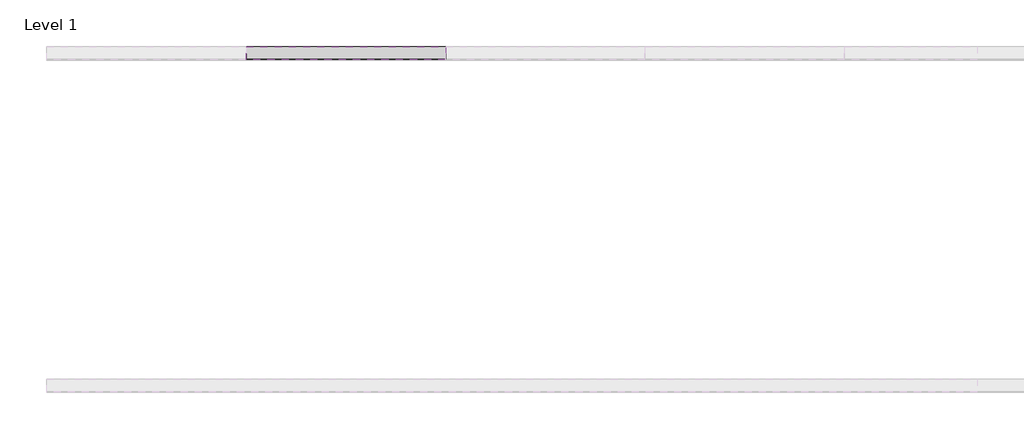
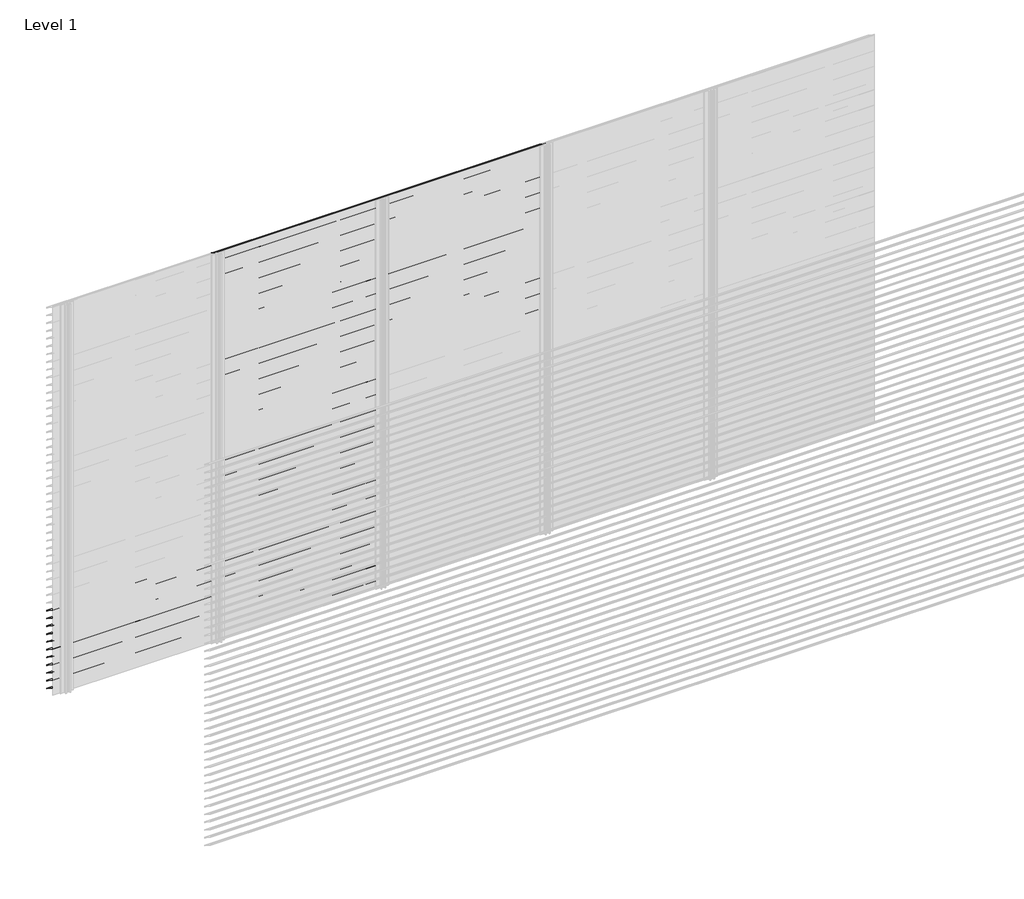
# One storey, part 8 of 153: 84 proxies.
"""IFC4 building model written with IfcOpenShell, lengths in millimetres."""

from ifc_helpers import new_model, si_unit, frame, origin, place, context, project, spatial, polyline, outline, extrude, element, save

model = new_model("IFC4")

# Units and contexts
model_context = context("Model", 3, world=origin())
ifc_project = project(units=[si_unit("LENGTHUNIT", "METRE", prefix="MILLI")], contexts=[model_context])

# Site, building, storey
site = spatial("IfcSite", under=ifc_project)
building = spatial("IfcBuilding", under=site)
storey = spatial("IfcBuildingStorey", under=building, Name="Level 1", Elevation=0.0)

# Proxies
placement = place(None, origin())
element("IfcBuildingElementProxy", 1, Name="Wall Sweeps", at=placement, inside=storey, context=model_context, shape_type="SweptSolid", body=[
    extrude(outline(polyline([(7065.0270068, 606.0), (7065.0270068, 600.0), (7063.7770068, 600.7216933), (7063.7770068, 605.2538091), (6987.0270068, 653.9915103), (6987.0270068, 660.0), (6988.2770068, 660.0), (6988.2770068, 654.7377012), (7065.0270068, 606.0)])), frame((466.6208097, 0.0, 0.0), z_axis=(1.0, 0.0, 0.0), x_axis=(0.0, 1.0, 0.0)), (0.0, 0.0, 1.0), 1200.0000002),
])
element("IfcBuildingElementProxy", 2, Name="Wall Sweeps", at=placement, inside=storey, context=model_context, shape_type="SweptSolid", body=[
    extrude(outline(polyline([(7065.0270068, 546.0), (7065.0270068, 540.0), (7063.7770068, 540.7216933), (7063.7770068, 545.2538091), (6987.0270068, 593.9915103), (6987.0270068, 600.0), (6988.2770068, 600.0), (6988.2770068, 594.7377012), (7065.0270068, 546.0)])), frame((466.6208097, 0.0, 0.0), z_axis=(1.0, 0.0, 0.0), x_axis=(0.0, 1.0, 0.0)), (0.0, 0.0, 1.0), 1200.0000002),
])
element("IfcBuildingElementProxy", 3, Name="Wall Sweeps", at=placement, inside=storey, context=model_context, shape_type="SweptSolid", body=[
    extrude(outline(polyline([(7065.0270068, 486.0), (7065.0270068, 480.0), (7063.7770068, 480.7216933), (7063.7770068, 485.2538091), (6987.0270068, 533.9915103), (6987.0270068, 540.0), (6988.2770068, 540.0), (6988.2770068, 534.7377012), (7065.0270068, 486.0)])), frame((466.6208097, 0.0, 0.0), z_axis=(1.0, 0.0, 0.0), x_axis=(0.0, 1.0, 0.0)), (0.0, 0.0, 1.0), 1200.0000002),
])
element("IfcBuildingElementProxy", 4, Name="Wall Sweeps", at=placement, inside=storey, context=model_context, shape_type="SweptSolid", body=[
    extrude(outline(polyline([(7065.0270068, 426.0), (7065.0270068, 420.0), (7063.7770068, 420.7216933), (7063.7770068, 425.2538091), (6987.0270068, 473.9915103), (6987.0270068, 480.0), (6988.2770068, 480.0), (6988.2770068, 474.7377012), (7065.0270068, 426.0)])), frame((466.6208097, 0.0, 0.0), z_axis=(1.0, 0.0, 0.0), x_axis=(0.0, 1.0, 0.0)), (0.0, 0.0, 1.0), 1200.0000002),
])
element("IfcBuildingElementProxy", 5, Name="Wall Sweeps", at=placement, inside=storey, context=model_context, shape_type="SweptSolid", body=[
    extrude(outline(polyline([(7065.0270068, 366.0), (7065.0270068, 360.0), (7063.7770068, 360.7216933), (7063.7770068, 365.2538091), (6987.0270068, 413.9915103), (6987.0270068, 420.0), (6988.2770068, 420.0), (6988.2770068, 414.7377012), (7065.0270068, 366.0)])), frame((466.6208097, 0.0, 0.0), z_axis=(1.0, 0.0, 0.0), x_axis=(0.0, 1.0, 0.0)), (0.0, 0.0, 1.0), 1200.0000002),
])
element("IfcBuildingElementProxy", 6, Name="Wall Sweeps", at=placement, inside=storey, context=model_context, shape_type="SweptSolid", body=[
    extrude(outline(polyline([(7065.0270068, 306.0), (7065.0270068, 300.0), (7063.7770068, 300.7216933), (7063.7770068, 305.2538091), (6987.0270068, 353.9915103), (6987.0270068, 360.0), (6988.2770068, 360.0), (6988.2770068, 354.7377012), (7065.0270068, 306.0)])), frame((466.6208097, 0.0, 0.0), z_axis=(1.0, 0.0, 0.0), x_axis=(0.0, 1.0, 0.0)), (0.0, 0.0, 1.0), 1200.0000002),
])
element("IfcBuildingElementProxy", 7, Name="Wall Sweeps", at=placement, inside=storey, context=model_context, shape_type="SweptSolid", body=[
    extrude(outline(polyline([(7065.0270068, 246.0), (7065.0270068, 240.0), (7063.7770068, 240.7216933), (7063.7770068, 245.2538091), (6987.0270068, 293.9915103), (6987.0270068, 300.0), (6988.2770068, 300.0), (6988.2770068, 294.7377012), (7065.0270068, 246.0)])), frame((466.6208097, 0.0, 0.0), z_axis=(1.0, 0.0, 0.0), x_axis=(0.0, 1.0, 0.0)), (0.0, 0.0, 1.0), 1200.0000002),
])
element("IfcBuildingElementProxy", 8, Name="Wall Sweeps", at=placement, inside=storey, context=model_context, shape_type="SweptSolid", body=[
    extrude(outline(polyline([(7065.0270068, 186.0), (7065.0270068, 180.0), (7063.7770068, 180.7216933), (7063.7770068, 185.2538091), (6987.0270068, 233.9915103), (6987.0270068, 240.0), (6988.2770068, 240.0), (6988.2770068, 234.7377012), (7065.0270068, 186.0)])), frame((466.6208097, 0.0, 0.0), z_axis=(1.0, 0.0, 0.0), x_axis=(0.0, 1.0, 0.0)), (0.0, 0.0, 1.0), 1200.0000002),
])
element("IfcBuildingElementProxy", 9, Name="Wall Sweeps", at=placement, inside=storey, context=model_context, shape_type="SweptSolid", body=[
    extrude(outline(polyline([(7065.0270068, 126.0), (7065.0270068, 120.0), (7063.7770068, 120.7216933), (7063.7770068, 125.2538091), (6987.0270068, 173.9915103), (6987.0270068, 180.0), (6988.2770068, 180.0), (6988.2770068, 174.7377012), (7065.0270068, 126.0)])), frame((466.6208097, 0.0, 0.0), z_axis=(1.0, 0.0, 0.0), x_axis=(0.0, 1.0, 0.0)), (0.0, 0.0, 1.0), 1200.0000002),
])
element("IfcBuildingElementProxy", 10, Name="Wall Sweeps", at=placement, inside=storey, context=model_context, shape_type="SweptSolid", body=[
    extrude(outline(polyline([(7065.0270068, 66.0), (7065.0270068, 60.0), (7063.7770068, 60.7216933), (7063.7770068, 65.2538091), (6987.0270068, 113.9915103), (6987.0270068, 120.0), (6988.2770068, 120.0), (6988.2770068, 114.7377012), (7065.0270068, 66.0)])), frame((466.6208097, 0.0, 0.0), z_axis=(1.0, 0.0, 0.0), x_axis=(0.0, 1.0, 0.0)), (0.0, 0.0, 1.0), 1200.0000002),
])
element("IfcBuildingElementProxy", 11, Name="Wall Sweeps", at=placement, inside=storey, context=model_context, shape_type="SweptSolid", body=[
    extrude(outline(polyline([(7065.0270068, 6.0), (7065.0270068, 0.0), (7063.7770068, 0.7216933), (7063.7770068, 5.2538091), (6987.0270068, 53.9915103), (6987.0270068, 60.0), (6988.2770068, 60.0), (6988.2770068, 54.7377012), (7065.0270068, 6.0)])), frame((466.6208097, 0.0, 0.0), z_axis=(1.0, 0.0, 0.0), x_axis=(0.0, 1.0, 0.0)), (0.0, 0.0, 1.0), 1200.0000002),
])
element("IfcBuildingElementProxy", 12, Name="Wall Sweeps", at=placement, inside=storey, context=model_context, shape_type="SweptSolid", body=[
    extrude(outline(polyline([(7065.0270068, 2946.0), (7065.0270068, 2940.0), (7063.7770068, 2940.7216933), (7063.7770068, 2945.2538091), (6987.0270068, 2993.9915103), (6987.0270068, 3000.0), (6988.2770068, 3000.0), (6988.2770068, 2994.7377012), (7065.0270068, 2946.0)])), frame((1666.6208099, 0.0, 0.0), z_axis=(1.0, 0.0, 0.0), x_axis=(0.0, 1.0, 0.0)), (0.0, 0.0, 1.0), 1199.9999999),
])
element("IfcBuildingElementProxy", 13, Name="Wall Sweeps", at=placement, inside=storey, context=model_context, shape_type="SweptSolid", body=[
    extrude(outline(polyline([(7065.0270068, 2886.0), (7065.0270068, 2880.0), (7063.7770068, 2880.7216933), (7063.7770068, 2885.2538091), (6987.0270068, 2933.9915103), (6987.0270068, 2940.0), (6988.2770068, 2940.0), (6988.2770068, 2934.7377012), (7065.0270068, 2886.0)])), frame((1666.6208099, 0.0, 0.0), z_axis=(1.0, 0.0, 0.0), x_axis=(0.0, 1.0, 0.0)), (0.0, 0.0, 1.0), 1199.9999999),
])
element("IfcBuildingElementProxy", 14, Name="Wall Sweeps", at=placement, inside=storey, context=model_context, shape_type="SweptSolid", body=[
    extrude(outline(polyline([(7065.0270068, 2826.0), (7065.0270068, 2820.0), (7063.7770068, 2820.7216933), (7063.7770068, 2825.2538091), (6987.0270068, 2873.9915103), (6987.0270068, 2880.0), (6988.2770068, 2880.0), (6988.2770068, 2874.7377012), (7065.0270068, 2826.0)])), frame((1666.6208099, 0.0, 0.0), z_axis=(1.0, 0.0, 0.0), x_axis=(0.0, 1.0, 0.0)), (0.0, 0.0, 1.0), 1199.9999999),
])
element("IfcBuildingElementProxy", 15, Name="Wall Sweeps", at=placement, inside=storey, context=model_context, shape_type="SweptSolid", body=[
    extrude(outline(polyline([(7065.0270068, 2766.0), (7065.0270068, 2760.0), (7063.7770068, 2760.7216933), (7063.7770068, 2765.2538091), (6987.0270068, 2813.9915103), (6987.0270068, 2820.0), (6988.2770068, 2820.0), (6988.2770068, 2814.7377012), (7065.0270068, 2766.0)])), frame((1666.6208099, 0.0, 0.0), z_axis=(1.0, 0.0, 0.0), x_axis=(0.0, 1.0, 0.0)), (0.0, 0.0, 1.0), 1199.9999999),
])
element("IfcBuildingElementProxy", 16, Name="Wall Sweeps", at=placement, inside=storey, context=model_context, shape_type="SweptSolid", body=[
    extrude(outline(polyline([(7065.0270068, 2706.0), (7065.0270068, 2700.0), (7063.7770068, 2700.7216933), (7063.7770068, 2705.2538091), (6987.0270068, 2753.9915103), (6987.0270068, 2760.0), (6988.2770068, 2760.0), (6988.2770068, 2754.7377012), (7065.0270068, 2706.0)])), frame((1666.6208099, 0.0, 0.0), z_axis=(1.0, 0.0, 0.0), x_axis=(0.0, 1.0, 0.0)), (0.0, 0.0, 1.0), 1199.9999999),
])
element("IfcBuildingElementProxy", 17, Name="Wall Sweeps", at=placement, inside=storey, context=model_context, shape_type="SweptSolid", body=[
    extrude(outline(polyline([(7065.0270068, 2646.0), (7065.0270068, 2640.0), (7063.7770068, 2640.7216933), (7063.7770068, 2645.2538091), (6987.0270068, 2693.9915103), (6987.0270068, 2700.0), (6988.2770068, 2700.0), (6988.2770068, 2694.7377012), (7065.0270068, 2646.0)])), frame((1666.6208099, 0.0, 0.0), z_axis=(1.0, 0.0, 0.0), x_axis=(0.0, 1.0, 0.0)), (0.0, 0.0, 1.0), 1199.9999999),
])
element("IfcBuildingElementProxy", 18, Name="Wall Sweeps", at=placement, inside=storey, context=model_context, shape_type="SweptSolid", body=[
    extrude(outline(polyline([(7065.0270068, 2586.0), (7065.0270068, 2580.0), (7063.7770068, 2580.7216933), (7063.7770068, 2585.2538091), (6987.0270068, 2633.9915103), (6987.0270068, 2640.0), (6988.2770068, 2640.0), (6988.2770068, 2634.7377012), (7065.0270068, 2586.0)])), frame((1666.6208099, 0.0, 0.0), z_axis=(1.0, 0.0, 0.0), x_axis=(0.0, 1.0, 0.0)), (0.0, 0.0, 1.0), 1199.9999999),
])
element("IfcBuildingElementProxy", 19, Name="Wall Sweeps", at=placement, inside=storey, context=model_context, shape_type="SweptSolid", body=[
    extrude(outline(polyline([(7065.0270068, 2526.0), (7065.0270068, 2520.0), (7063.7770068, 2520.7216933), (7063.7770068, 2525.2538091), (6987.0270068, 2573.9915103), (6987.0270068, 2580.0), (6988.2770068, 2580.0), (6988.2770068, 2574.7377012), (7065.0270068, 2526.0)])), frame((1666.6208099, 0.0, 0.0), z_axis=(1.0, 0.0, 0.0), x_axis=(0.0, 1.0, 0.0)), (0.0, 0.0, 1.0), 1199.9999999),
])
element("IfcBuildingElementProxy", 20, Name="Wall Sweeps", at=placement, inside=storey, context=model_context, shape_type="SweptSolid", body=[
    extrude(outline(polyline([(7065.0270068, 2466.0), (7065.0270068, 2460.0), (7063.7770068, 2460.7216933), (7063.7770068, 2465.2538091), (6987.0270068, 2513.9915103), (6987.0270068, 2520.0), (6988.2770068, 2520.0), (6988.2770068, 2514.7377012), (7065.0270068, 2466.0)])), frame((1666.6208099, 0.0, 0.0), z_axis=(1.0, 0.0, 0.0), x_axis=(0.0, 1.0, 0.0)), (0.0, 0.0, 1.0), 1199.9999999),
])
element("IfcBuildingElementProxy", 21, Name="Wall Sweeps", at=placement, inside=storey, context=model_context, shape_type="SweptSolid", body=[
    extrude(outline(polyline([(7065.0270068, 2406.0), (7065.0270068, 2400.0), (7063.7770068, 2400.7216933), (7063.7770068, 2405.2538091), (6987.0270068, 2453.9915103), (6987.0270068, 2460.0), (6988.2770068, 2460.0), (6988.2770068, 2454.7377012), (7065.0270068, 2406.0)])), frame((1666.6208099, 0.0, 0.0), z_axis=(1.0, 0.0, 0.0), x_axis=(0.0, 1.0, 0.0)), (0.0, 0.0, 1.0), 1199.9999999),
])
element("IfcBuildingElementProxy", 22, Name="Wall Sweeps", at=placement, inside=storey, context=model_context, shape_type="SweptSolid", body=[
    extrude(outline(polyline([(7065.0270068, 2346.0), (7065.0270068, 2340.0), (7063.7770068, 2340.7216933), (7063.7770068, 2345.2538091), (6987.0270068, 2393.9915103), (6987.0270068, 2400.0), (6988.2770068, 2400.0), (6988.2770068, 2394.7377012), (7065.0270068, 2346.0)])), frame((1666.6208099, 0.0, 0.0), z_axis=(1.0, 0.0, 0.0), x_axis=(0.0, 1.0, 0.0)), (0.0, 0.0, 1.0), 1199.9999999),
])
element("IfcBuildingElementProxy", 23, Name="Wall Sweeps", at=placement, inside=storey, context=model_context, shape_type="SweptSolid", body=[
    extrude(outline(polyline([(7065.0270068, 2286.0), (7065.0270068, 2280.0), (7063.7770068, 2280.7216933), (7063.7770068, 2285.2538091), (6987.0270068, 2333.9915103), (6987.0270068, 2340.0), (6988.2770068, 2340.0), (6988.2770068, 2334.7377012), (7065.0270068, 2286.0)])), frame((1666.6208099, 0.0, 0.0), z_axis=(1.0, 0.0, 0.0), x_axis=(0.0, 1.0, 0.0)), (0.0, 0.0, 1.0), 1199.9999999),
])
element("IfcBuildingElementProxy", 24, Name="Wall Sweeps", at=placement, inside=storey, context=model_context, shape_type="SweptSolid", body=[
    extrude(outline(polyline([(7065.0270068, 2226.0), (7065.0270068, 2220.0), (7063.7770068, 2220.7216933), (7063.7770068, 2225.2538091), (6987.0270068, 2273.9915103), (6987.0270068, 2280.0), (6988.2770068, 2280.0), (6988.2770068, 2274.7377012), (7065.0270068, 2226.0)])), frame((1666.6208099, 0.0, 0.0), z_axis=(1.0, 0.0, 0.0), x_axis=(0.0, 1.0, 0.0)), (0.0, 0.0, 1.0), 1199.9999999),
])
element("IfcBuildingElementProxy", 25, Name="Wall Sweeps", at=placement, inside=storey, context=model_context, shape_type="SweptSolid", body=[
    extrude(outline(polyline([(7065.0270068, 2166.0), (7065.0270068, 2160.0), (7063.7770068, 2160.7216933), (7063.7770068, 2165.2538091), (6987.0270068, 2213.9915103), (6987.0270068, 2220.0), (6988.2770068, 2220.0), (6988.2770068, 2214.7377012), (7065.0270068, 2166.0)])), frame((1666.6208099, 0.0, 0.0), z_axis=(1.0, 0.0, 0.0), x_axis=(0.0, 1.0, 0.0)), (0.0, 0.0, 1.0), 1199.9999999),
])
element("IfcBuildingElementProxy", 26, Name="Wall Sweeps", at=placement, inside=storey, context=model_context, shape_type="SweptSolid", body=[
    extrude(outline(polyline([(7065.0270068, 2106.0), (7065.0270068, 2100.0), (7063.7770068, 2100.7216933), (7063.7770068, 2105.2538091), (6987.0270068, 2153.9915103), (6987.0270068, 2160.0), (6988.2770068, 2160.0), (6988.2770068, 2154.7377012), (7065.0270068, 2106.0)])), frame((1666.6208099, 0.0, 0.0), z_axis=(1.0, 0.0, 0.0), x_axis=(0.0, 1.0, 0.0)), (0.0, 0.0, 1.0), 1199.9999999),
])
element("IfcBuildingElementProxy", 27, Name="Wall Sweeps", at=placement, inside=storey, context=model_context, shape_type="SweptSolid", body=[
    extrude(outline(polyline([(7065.0270068, 2046.0), (7065.0270068, 2040.0), (7063.7770068, 2040.7216933), (7063.7770068, 2045.2538091), (6987.0270068, 2093.9915103), (6987.0270068, 2100.0), (6988.2770068, 2100.0), (6988.2770068, 2094.7377012), (7065.0270068, 2046.0)])), frame((1666.6208099, 0.0, 0.0), z_axis=(1.0, 0.0, 0.0), x_axis=(0.0, 1.0, 0.0)), (0.0, 0.0, 1.0), 1199.9999999),
])
element("IfcBuildingElementProxy", 28, Name="Wall Sweeps", at=placement, inside=storey, context=model_context, shape_type="SweptSolid", body=[
    extrude(outline(polyline([(7065.0270068, 1986.0), (7065.0270068, 1980.0), (7063.7770068, 1980.7216933), (7063.7770068, 1985.2538091), (6987.0270068, 2033.9915103), (6987.0270068, 2040.0), (6988.2770068, 2040.0), (6988.2770068, 2034.7377012), (7065.0270068, 1986.0)])), frame((1666.6208099, 0.0, 0.0), z_axis=(1.0, 0.0, 0.0), x_axis=(0.0, 1.0, 0.0)), (0.0, 0.0, 1.0), 1199.9999999),
])
element("IfcBuildingElementProxy", 29, Name="Wall Sweeps", at=placement, inside=storey, context=model_context, shape_type="SweptSolid", body=[
    extrude(outline(polyline([(7065.0270068, 1926.0), (7065.0270068, 1920.0), (7063.7770068, 1920.7216933), (7063.7770068, 1925.2538091), (6987.0270068, 1973.9915103), (6987.0270068, 1980.0), (6988.2770068, 1980.0), (6988.2770068, 1974.7377012), (7065.0270068, 1926.0)])), frame((1666.6208099, 0.0, 0.0), z_axis=(1.0, 0.0, 0.0), x_axis=(0.0, 1.0, 0.0)), (0.0, 0.0, 1.0), 1199.9999999),
])
element("IfcBuildingElementProxy", 30, Name="Wall Sweeps", at=placement, inside=storey, context=model_context, shape_type="SweptSolid", body=[
    extrude(outline(polyline([(7065.0270068, 1866.0), (7065.0270068, 1860.0), (7063.7770068, 1860.7216933), (7063.7770068, 1865.2538091), (6987.0270068, 1913.9915103), (6987.0270068, 1920.0), (6988.2770068, 1920.0), (6988.2770068, 1914.7377012), (7065.0270068, 1866.0)])), frame((1666.6208099, 0.0, 0.0), z_axis=(1.0, 0.0, 0.0), x_axis=(0.0, 1.0, 0.0)), (0.0, 0.0, 1.0), 1199.9999999),
])
element("IfcBuildingElementProxy", 31, Name="Wall Sweeps", at=placement, inside=storey, context=model_context, shape_type="SweptSolid", body=[
    extrude(outline(polyline([(7065.0270068, 1806.0), (7065.0270068, 1800.0), (7063.7770068, 1800.7216933), (7063.7770068, 1805.2538091), (6987.0270068, 1853.9915103), (6987.0270068, 1860.0), (6988.2770068, 1860.0), (6988.2770068, 1854.7377012), (7065.0270068, 1806.0)])), frame((1666.6208099, 0.0, 0.0), z_axis=(1.0, 0.0, 0.0), x_axis=(0.0, 1.0, 0.0)), (0.0, 0.0, 1.0), 1199.9999999),
])
element("IfcBuildingElementProxy", 32, Name="Wall Sweeps", at=placement, inside=storey, context=model_context, shape_type="SweptSolid", body=[
    extrude(outline(polyline([(7065.0270068, 1746.0), (7065.0270068, 1740.0), (7063.7770068, 1740.7216933), (7063.7770068, 1745.2538091), (6987.0270068, 1793.9915103), (6987.0270068, 1800.0), (6988.2770068, 1800.0), (6988.2770068, 1794.7377012), (7065.0270068, 1746.0)])), frame((1666.6208099, 0.0, 0.0), z_axis=(1.0, 0.0, 0.0), x_axis=(0.0, 1.0, 0.0)), (0.0, 0.0, 1.0), 1199.9999999),
])
element("IfcBuildingElementProxy", 33, Name="Wall Sweeps", at=placement, inside=storey, context=model_context, shape_type="SweptSolid", body=[
    extrude(outline(polyline([(7065.0270068, 1686.0), (7065.0270068, 1680.0), (7063.7770068, 1680.7216933), (7063.7770068, 1685.2538091), (6987.0270068, 1733.9915103), (6987.0270068, 1740.0), (6988.2770068, 1740.0), (6988.2770068, 1734.7377012), (7065.0270068, 1686.0)])), frame((1666.6208099, 0.0, 0.0), z_axis=(1.0, 0.0, 0.0), x_axis=(0.0, 1.0, 0.0)), (0.0, 0.0, 1.0), 1199.9999999),
])
element("IfcBuildingElementProxy", 34, Name="Wall Sweeps", at=placement, inside=storey, context=model_context, shape_type="SweptSolid", body=[
    extrude(outline(polyline([(7065.0270068, 1626.0), (7065.0270068, 1620.0), (7063.7770068, 1620.7216933), (7063.7770068, 1625.2538091), (6987.0270068, 1673.9915103), (6987.0270068, 1680.0), (6988.2770068, 1680.0), (6988.2770068, 1674.7377012), (7065.0270068, 1626.0)])), frame((1666.6208099, 0.0, 0.0), z_axis=(1.0, 0.0, 0.0), x_axis=(0.0, 1.0, 0.0)), (0.0, 0.0, 1.0), 1199.9999999),
])
element("IfcBuildingElementProxy", 35, Name="Wall Sweeps", at=placement, inside=storey, context=model_context, shape_type="SweptSolid", body=[
    extrude(outline(polyline([(7065.0270068, 1566.0), (7065.0270068, 1560.0), (7063.7770068, 1560.7216933), (7063.7770068, 1565.2538091), (6987.0270068, 1613.9915103), (6987.0270068, 1620.0), (6988.2770068, 1620.0), (6988.2770068, 1614.7377012), (7065.0270068, 1566.0)])), frame((1666.6208099, 0.0, 0.0), z_axis=(1.0, 0.0, 0.0), x_axis=(0.0, 1.0, 0.0)), (0.0, 0.0, 1.0), 1199.9999999),
])
element("IfcBuildingElementProxy", 36, Name="Wall Sweeps", at=placement, inside=storey, context=model_context, shape_type="SweptSolid", body=[
    extrude(outline(polyline([(7065.0270068, 1506.0), (7065.0270068, 1500.0), (7063.7770068, 1500.7216933), (7063.7770068, 1505.2538091), (6987.0270068, 1553.9915103), (6987.0270068, 1560.0), (6988.2770068, 1560.0), (6988.2770068, 1554.7377012), (7065.0270068, 1506.0)])), frame((1666.6208099, 0.0, 0.0), z_axis=(1.0, 0.0, 0.0), x_axis=(0.0, 1.0, 0.0)), (0.0, 0.0, 1.0), 1199.9999999),
])
element("IfcBuildingElementProxy", 37, Name="Wall Sweeps", at=placement, inside=storey, context=model_context, shape_type="SweptSolid", body=[
    extrude(outline(polyline([(7065.0270068, 1446.0), (7065.0270068, 1440.0), (7063.7770068, 1440.7216933), (7063.7770068, 1445.2538091), (6987.0270068, 1493.9915103), (6987.0270068, 1500.0), (6988.2770068, 1500.0), (6988.2770068, 1494.7377012), (7065.0270068, 1446.0)])), frame((1666.6208099, 0.0, 0.0), z_axis=(1.0, 0.0, 0.0), x_axis=(0.0, 1.0, 0.0)), (0.0, 0.0, 1.0), 1199.9999999),
])
element("IfcBuildingElementProxy", 38, Name="Wall Sweeps", at=placement, inside=storey, context=model_context, shape_type="SweptSolid", body=[
    extrude(outline(polyline([(7065.0270068, 1386.0), (7065.0270068, 1380.0), (7063.7770068, 1380.7216933), (7063.7770068, 1385.2538091), (6987.0270068, 1433.9915103), (6987.0270068, 1440.0), (6988.2770068, 1440.0), (6988.2770068, 1434.7377012), (7065.0270068, 1386.0)])), frame((1666.6208099, 0.0, 0.0), z_axis=(1.0, 0.0, 0.0), x_axis=(0.0, 1.0, 0.0)), (0.0, 0.0, 1.0), 1199.9999999),
])
element("IfcBuildingElementProxy", 39, Name="Wall Sweeps", at=placement, inside=storey, context=model_context, shape_type="SweptSolid", body=[
    extrude(outline(polyline([(7065.0270068, 1326.0), (7065.0270068, 1320.0), (7063.7770068, 1320.7216933), (7063.7770068, 1325.2538091), (6987.0270068, 1373.9915103), (6987.0270068, 1380.0), (6988.2770068, 1380.0), (6988.2770068, 1374.7377012), (7065.0270068, 1326.0)])), frame((1666.6208099, 0.0, 0.0), z_axis=(1.0, 0.0, 0.0), x_axis=(0.0, 1.0, 0.0)), (0.0, 0.0, 1.0), 1199.9999999),
])
element("IfcBuildingElementProxy", 40, Name="Wall Sweeps", at=placement, inside=storey, context=model_context, shape_type="SweptSolid", body=[
    extrude(outline(polyline([(7065.0270068, 1266.0), (7065.0270068, 1260.0), (7063.7770068, 1260.7216933), (7063.7770068, 1265.2538091), (6987.0270068, 1313.9915103), (6987.0270068, 1320.0), (6988.2770068, 1320.0), (6988.2770068, 1314.7377012), (7065.0270068, 1266.0)])), frame((1666.6208099, 0.0, 0.0), z_axis=(1.0, 0.0, 0.0), x_axis=(0.0, 1.0, 0.0)), (0.0, 0.0, 1.0), 1199.9999999),
])
element("IfcBuildingElementProxy", 41, Name="Wall Sweeps", at=placement, inside=storey, context=model_context, shape_type="SweptSolid", body=[
    extrude(outline(polyline([(7065.0270068, 1206.0), (7065.0270068, 1200.0), (7063.7770068, 1200.7216933), (7063.7770068, 1205.2538091), (6987.0270068, 1253.9915103), (6987.0270068, 1260.0), (6988.2770068, 1260.0), (6988.2770068, 1254.7377012), (7065.0270068, 1206.0)])), frame((1666.6208099, 0.0, 0.0), z_axis=(1.0, 0.0, 0.0), x_axis=(0.0, 1.0, 0.0)), (0.0, 0.0, 1.0), 1199.9999999),
])
element("IfcBuildingElementProxy", 42, Name="Wall Sweeps", at=placement, inside=storey, context=model_context, shape_type="SweptSolid", body=[
    extrude(outline(polyline([(7065.0270068, 1146.0), (7065.0270068, 1140.0), (7063.7770068, 1140.7216933), (7063.7770068, 1145.2538091), (6987.0270068, 1193.9915103), (6987.0270068, 1200.0), (6988.2770068, 1200.0), (6988.2770068, 1194.7377012), (7065.0270068, 1146.0)])), frame((1666.6208099, 0.0, 0.0), z_axis=(1.0, 0.0, 0.0), x_axis=(0.0, 1.0, 0.0)), (0.0, 0.0, 1.0), 1199.9999999),
])
element("IfcBuildingElementProxy", 43, Name="Wall Sweeps", at=placement, inside=storey, context=model_context, shape_type="SweptSolid", body=[
    extrude(outline(polyline([(7065.0270068, 1086.0), (7065.0270068, 1080.0), (7063.7770068, 1080.7216933), (7063.7770068, 1085.2538091), (6987.0270068, 1133.9915103), (6987.0270068, 1140.0), (6988.2770068, 1140.0), (6988.2770068, 1134.7377012), (7065.0270068, 1086.0)])), frame((1666.6208099, 0.0, 0.0), z_axis=(1.0, 0.0, 0.0), x_axis=(0.0, 1.0, 0.0)), (0.0, 0.0, 1.0), 1199.9999999),
])
element("IfcBuildingElementProxy", 44, Name="Wall Sweeps", at=placement, inside=storey, context=model_context, shape_type="SweptSolid", body=[
    extrude(outline(polyline([(7065.0270068, 1026.0), (7065.0270068, 1020.0), (7063.7770068, 1020.7216933), (7063.7770068, 1025.2538091), (6987.0270068, 1073.9915103), (6987.0270068, 1080.0), (6988.2770068, 1080.0), (6988.2770068, 1074.7377012), (7065.0270068, 1026.0)])), frame((1666.6208099, 0.0, 0.0), z_axis=(1.0, 0.0, 0.0), x_axis=(0.0, 1.0, 0.0)), (0.0, 0.0, 1.0), 1199.9999999),
])
element("IfcBuildingElementProxy", 45, Name="Wall Sweeps", at=placement, inside=storey, context=model_context, shape_type="SweptSolid", body=[
    extrude(outline(polyline([(7065.0270068, 966.0), (7065.0270068, 960.0), (7063.7770068, 960.7216933), (7063.7770068, 965.2538091), (6987.0270068, 1013.9915103), (6987.0270068, 1020.0), (6988.2770068, 1020.0), (6988.2770068, 1014.7377012), (7065.0270068, 966.0)])), frame((1666.6208099, 0.0, 0.0), z_axis=(1.0, 0.0, 0.0), x_axis=(0.0, 1.0, 0.0)), (0.0, 0.0, 1.0), 1199.9999999),
])
element("IfcBuildingElementProxy", 46, Name="Wall Sweeps", at=placement, inside=storey, context=model_context, shape_type="SweptSolid", body=[
    extrude(outline(polyline([(7065.0270068, 906.0), (7065.0270068, 900.0), (7063.7770068, 900.7216933), (7063.7770068, 905.2538091), (6987.0270068, 953.9915103), (6987.0270068, 960.0), (6988.2770068, 960.0), (6988.2770068, 954.7377012), (7065.0270068, 906.0)])), frame((1666.6208099, 0.0, 0.0), z_axis=(1.0, 0.0, 0.0), x_axis=(0.0, 1.0, 0.0)), (0.0, 0.0, 1.0), 1199.9999999),
])
element("IfcBuildingElementProxy", 47, Name="Wall Sweeps", at=placement, inside=storey, context=model_context, shape_type="SweptSolid", body=[
    extrude(outline(polyline([(7065.0270068, 846.0), (7065.0270068, 840.0), (7063.7770068, 840.7216933), (7063.7770068, 845.2538091), (6987.0270068, 893.9915103), (6987.0270068, 900.0), (6988.2770068, 900.0), (6988.2770068, 894.7377012), (7065.0270068, 846.0)])), frame((1666.6208099, 0.0, 0.0), z_axis=(1.0, 0.0, 0.0), x_axis=(0.0, 1.0, 0.0)), (0.0, 0.0, 1.0), 1199.9999999),
])
element("IfcBuildingElementProxy", 48, Name="Wall Sweeps", at=placement, inside=storey, context=model_context, shape_type="SweptSolid", body=[
    extrude(outline(polyline([(7065.0270068, 786.0), (7065.0270068, 780.0), (7063.7770068, 780.7216933), (7063.7770068, 785.2538091), (6987.0270068, 833.9915103), (6987.0270068, 840.0), (6988.2770068, 840.0), (6988.2770068, 834.7377012), (7065.0270068, 786.0)])), frame((1666.6208099, 0.0, 0.0), z_axis=(1.0, 0.0, 0.0), x_axis=(0.0, 1.0, 0.0)), (0.0, 0.0, 1.0), 1199.9999999),
])
element("IfcBuildingElementProxy", 49, Name="Wall Sweeps", at=placement, inside=storey, context=model_context, shape_type="SweptSolid", body=[
    extrude(outline(polyline([(7065.0270068, 726.0), (7065.0270068, 720.0), (7063.7770068, 720.7216933), (7063.7770068, 725.2538091), (6987.0270068, 773.9915103), (6987.0270068, 780.0), (6988.2770068, 780.0), (6988.2770068, 774.7377012), (7065.0270068, 726.0)])), frame((1666.6208099, 0.0, 0.0), z_axis=(1.0, 0.0, 0.0), x_axis=(0.0, 1.0, 0.0)), (0.0, 0.0, 1.0), 1199.9999999),
])
element("IfcBuildingElementProxy", 50, Name="Wall Sweeps", at=placement, inside=storey, context=model_context, shape_type="SweptSolid", body=[
    extrude(outline(polyline([(7065.0270068, 666.0), (7065.0270068, 660.0), (7063.7770068, 660.7216933), (7063.7770068, 665.2538091), (6987.0270068, 713.9915103), (6987.0270068, 720.0), (6988.2770068, 720.0), (6988.2770068, 714.7377012), (7065.0270068, 666.0)])), frame((1666.6208099, 0.0, 0.0), z_axis=(1.0, 0.0, 0.0), x_axis=(0.0, 1.0, 0.0)), (0.0, 0.0, 1.0), 1199.9999999),
])
element("IfcBuildingElementProxy", 51, Name="Wall Sweeps", at=placement, inside=storey, context=model_context, shape_type="SweptSolid", body=[
    extrude(outline(polyline([(7065.0270068, 606.0), (7065.0270068, 600.0), (7063.7770068, 600.7216933), (7063.7770068, 605.2538091), (6987.0270068, 653.9915103), (6987.0270068, 660.0), (6988.2770068, 660.0), (6988.2770068, 654.7377012), (7065.0270068, 606.0)])), frame((1666.6208099, 0.0, 0.0), z_axis=(1.0, 0.0, 0.0), x_axis=(0.0, 1.0, 0.0)), (0.0, 0.0, 1.0), 1199.9999999),
])
element("IfcBuildingElementProxy", 52, Name="Wall Sweeps", at=placement, inside=storey, context=model_context, shape_type="SweptSolid", body=[
    extrude(outline(polyline([(7065.0270068, 546.0), (7065.0270068, 540.0), (7063.7770068, 540.7216933), (7063.7770068, 545.2538091), (6987.0270068, 593.9915103), (6987.0270068, 600.0), (6988.2770068, 600.0), (6988.2770068, 594.7377012), (7065.0270068, 546.0)])), frame((1666.6208099, 0.0, 0.0), z_axis=(1.0, 0.0, 0.0), x_axis=(0.0, 1.0, 0.0)), (0.0, 0.0, 1.0), 1199.9999999),
])
element("IfcBuildingElementProxy", 53, Name="Wall Sweeps", at=placement, inside=storey, context=model_context, shape_type="SweptSolid", body=[
    extrude(outline(polyline([(7065.0270068, 486.0), (7065.0270068, 480.0), (7063.7770068, 480.7216933), (7063.7770068, 485.2538091), (6987.0270068, 533.9915103), (6987.0270068, 540.0), (6988.2770068, 540.0), (6988.2770068, 534.7377012), (7065.0270068, 486.0)])), frame((1666.6208099, 0.0, 0.0), z_axis=(1.0, 0.0, 0.0), x_axis=(0.0, 1.0, 0.0)), (0.0, 0.0, 1.0), 1199.9999999),
])
element("IfcBuildingElementProxy", 54, Name="Wall Sweeps", at=placement, inside=storey, context=model_context, shape_type="SweptSolid", body=[
    extrude(outline(polyline([(7065.0270068, 426.0), (7065.0270068, 420.0), (7063.7770068, 420.7216933), (7063.7770068, 425.2538091), (6987.0270068, 473.9915103), (6987.0270068, 480.0), (6988.2770068, 480.0), (6988.2770068, 474.7377012), (7065.0270068, 426.0)])), frame((1666.6208099, 0.0, 0.0), z_axis=(1.0, 0.0, 0.0), x_axis=(0.0, 1.0, 0.0)), (0.0, 0.0, 1.0), 1199.9999999),
])
element("IfcBuildingElementProxy", 55, Name="Wall Sweeps", at=placement, inside=storey, context=model_context, shape_type="SweptSolid", body=[
    extrude(outline(polyline([(7065.0270068, 366.0), (7065.0270068, 360.0), (7063.7770068, 360.7216933), (7063.7770068, 365.2538091), (6987.0270068, 413.9915103), (6987.0270068, 420.0), (6988.2770068, 420.0), (6988.2770068, 414.7377012), (7065.0270068, 366.0)])), frame((1666.6208099, 0.0, 0.0), z_axis=(1.0, 0.0, 0.0), x_axis=(0.0, 1.0, 0.0)), (0.0, 0.0, 1.0), 1199.9999999),
])
element("IfcBuildingElementProxy", 56, Name="Wall Sweeps", at=placement, inside=storey, context=model_context, shape_type="SweptSolid", body=[
    extrude(outline(polyline([(7065.0270068, 306.0), (7065.0270068, 300.0), (7063.7770068, 300.7216933), (7063.7770068, 305.2538091), (6987.0270068, 353.9915103), (6987.0270068, 360.0), (6988.2770068, 360.0), (6988.2770068, 354.7377012), (7065.0270068, 306.0)])), frame((1666.6208099, 0.0, 0.0), z_axis=(1.0, 0.0, 0.0), x_axis=(0.0, 1.0, 0.0)), (0.0, 0.0, 1.0), 1199.9999999),
])
element("IfcBuildingElementProxy", 57, Name="Wall Sweeps", at=placement, inside=storey, context=model_context, shape_type="SweptSolid", body=[
    extrude(outline(polyline([(7065.0270068, 246.0), (7065.0270068, 240.0), (7063.7770068, 240.7216933), (7063.7770068, 245.2538091), (6987.0270068, 293.9915103), (6987.0270068, 300.0), (6988.2770068, 300.0), (6988.2770068, 294.7377012), (7065.0270068, 246.0)])), frame((1666.6208099, 0.0, 0.0), z_axis=(1.0, 0.0, 0.0), x_axis=(0.0, 1.0, 0.0)), (0.0, 0.0, 1.0), 1199.9999999),
])
element("IfcBuildingElementProxy", 58, Name="Wall Sweeps", at=placement, inside=storey, context=model_context, shape_type="SweptSolid", body=[
    extrude(outline(polyline([(7065.0270068, 186.0), (7065.0270068, 180.0), (7063.7770068, 180.7216933), (7063.7770068, 185.2538091), (6987.0270068, 233.9915103), (6987.0270068, 240.0), (6988.2770068, 240.0), (6988.2770068, 234.7377012), (7065.0270068, 186.0)])), frame((1666.6208099, 0.0, 0.0), z_axis=(1.0, 0.0, 0.0), x_axis=(0.0, 1.0, 0.0)), (0.0, 0.0, 1.0), 1199.9999999),
])
element("IfcBuildingElementProxy", 59, Name="Wall Sweeps", at=placement, inside=storey, context=model_context, shape_type="SweptSolid", body=[
    extrude(outline(polyline([(7065.0270068, 126.0), (7065.0270068, 120.0), (7063.7770068, 120.7216933), (7063.7770068, 125.2538091), (6987.0270068, 173.9915103), (6987.0270068, 180.0), (6988.2770068, 180.0), (6988.2770068, 174.7377012), (7065.0270068, 126.0)])), frame((1666.6208099, 0.0, 0.0), z_axis=(1.0, 0.0, 0.0), x_axis=(0.0, 1.0, 0.0)), (0.0, 0.0, 1.0), 1199.9999999),
])
element("IfcBuildingElementProxy", 60, Name="Wall Sweeps", at=placement, inside=storey, context=model_context, shape_type="SweptSolid", body=[
    extrude(outline(polyline([(7065.0270068, 66.0), (7065.0270068, 60.0), (7063.7770068, 60.7216933), (7063.7770068, 65.2538091), (6987.0270068, 113.9915103), (6987.0270068, 120.0), (6988.2770068, 120.0), (6988.2770068, 114.7377012), (7065.0270068, 66.0)])), frame((1666.6208099, 0.0, 0.0), z_axis=(1.0, 0.0, 0.0), x_axis=(0.0, 1.0, 0.0)), (0.0, 0.0, 1.0), 1199.9999999),
])
element("IfcBuildingElementProxy", 61, Name="Wall Sweeps", at=placement, inside=storey, context=model_context, shape_type="SweptSolid", body=[
    extrude(outline(polyline([(7065.0270068, 6.0), (7065.0270068, 0.0), (7063.7770068, 0.7216933), (7063.7770068, 5.2538091), (6987.0270068, 53.9915103), (6987.0270068, 60.0), (6988.2770068, 60.0), (6988.2770068, 54.7377012), (7065.0270068, 6.0)])), frame((1666.6208099, 0.0, 0.0), z_axis=(1.0, 0.0, 0.0), x_axis=(0.0, 1.0, 0.0)), (0.0, 0.0, 1.0), 1199.9999999),
])
element("IfcBuildingElementProxy", 62, Name="Wall Sweeps", at=placement, inside=storey, context=model_context, shape_type="SweptSolid", body=[
    extrude(outline(polyline([(7065.0270068, 2946.0), (7065.0270068, 2940.0), (7063.7770068, 2940.7216933), (7063.7770068, 2945.2538091), (6987.0270068, 2993.9915103), (6987.0270068, 3000.0), (6988.2770068, 3000.0), (6988.2770068, 2994.7377012), (7065.0270068, 2946.0)])), frame((2866.6208097, 0.0, 0.0), z_axis=(1.0, 0.0, 0.0), x_axis=(0.0, 1.0, 0.0)), (0.0, 0.0, 1.0), 1199.9999999),
])
element("IfcBuildingElementProxy", 63, Name="Wall Sweeps", at=placement, inside=storey, context=model_context, shape_type="SweptSolid", body=[
    extrude(outline(polyline([(7065.0270068, 2886.0), (7065.0270068, 2880.0), (7063.7770068, 2880.7216933), (7063.7770068, 2885.2538091), (6987.0270068, 2933.9915103), (6987.0270068, 2940.0), (6988.2770068, 2940.0), (6988.2770068, 2934.7377012), (7065.0270068, 2886.0)])), frame((2866.6208097, 0.0, 0.0), z_axis=(1.0, 0.0, 0.0), x_axis=(0.0, 1.0, 0.0)), (0.0, 0.0, 1.0), 1199.9999999),
])
element("IfcBuildingElementProxy", 64, Name="Wall Sweeps", at=placement, inside=storey, context=model_context, shape_type="SweptSolid", body=[
    extrude(outline(polyline([(7065.0270068, 2826.0), (7065.0270068, 2820.0), (7063.7770068, 2820.7216933), (7063.7770068, 2825.2538091), (6987.0270068, 2873.9915103), (6987.0270068, 2880.0), (6988.2770068, 2880.0), (6988.2770068, 2874.7377012), (7065.0270068, 2826.0)])), frame((2866.6208097, 0.0, 0.0), z_axis=(1.0, 0.0, 0.0), x_axis=(0.0, 1.0, 0.0)), (0.0, 0.0, 1.0), 1199.9999999),
])
element("IfcBuildingElementProxy", 65, Name="Wall Sweeps", at=placement, inside=storey, context=model_context, shape_type="SweptSolid", body=[
    extrude(outline(polyline([(7065.0270068, 2766.0), (7065.0270068, 2760.0), (7063.7770068, 2760.7216933), (7063.7770068, 2765.2538091), (6987.0270068, 2813.9915103), (6987.0270068, 2820.0), (6988.2770068, 2820.0), (6988.2770068, 2814.7377012), (7065.0270068, 2766.0)])), frame((2866.6208097, 0.0, 0.0), z_axis=(1.0, 0.0, 0.0), x_axis=(0.0, 1.0, 0.0)), (0.0, 0.0, 1.0), 1199.9999999),
])
element("IfcBuildingElementProxy", 66, Name="Wall Sweeps", at=placement, inside=storey, context=model_context, shape_type="SweptSolid", body=[
    extrude(outline(polyline([(7065.0270068, 2706.0), (7065.0270068, 2700.0), (7063.7770068, 2700.7216933), (7063.7770068, 2705.2538091), (6987.0270068, 2753.9915103), (6987.0270068, 2760.0), (6988.2770068, 2760.0), (6988.2770068, 2754.7377012), (7065.0270068, 2706.0)])), frame((2866.6208097, 0.0, 0.0), z_axis=(1.0, 0.0, 0.0), x_axis=(0.0, 1.0, 0.0)), (0.0, 0.0, 1.0), 1199.9999999),
])
element("IfcBuildingElementProxy", 67, Name="Wall Sweeps", at=placement, inside=storey, context=model_context, shape_type="SweptSolid", body=[
    extrude(outline(polyline([(7065.0270068, 2646.0), (7065.0270068, 2640.0), (7063.7770068, 2640.7216933), (7063.7770068, 2645.2538091), (6987.0270068, 2693.9915103), (6987.0270068, 2700.0), (6988.2770068, 2700.0), (6988.2770068, 2694.7377012), (7065.0270068, 2646.0)])), frame((2866.6208097, 0.0, 0.0), z_axis=(1.0, 0.0, 0.0), x_axis=(0.0, 1.0, 0.0)), (0.0, 0.0, 1.0), 1199.9999999),
])
element("IfcBuildingElementProxy", 68, Name="Wall Sweeps", at=placement, inside=storey, context=model_context, shape_type="SweptSolid", body=[
    extrude(outline(polyline([(7065.0270068, 2586.0), (7065.0270068, 2580.0), (7063.7770068, 2580.7216933), (7063.7770068, 2585.2538091), (6987.0270068, 2633.9915103), (6987.0270068, 2640.0), (6988.2770068, 2640.0), (6988.2770068, 2634.7377012), (7065.0270068, 2586.0)])), frame((2866.6208097, 0.0, 0.0), z_axis=(1.0, 0.0, 0.0), x_axis=(0.0, 1.0, 0.0)), (0.0, 0.0, 1.0), 1199.9999999),
])
element("IfcBuildingElementProxy", 69, Name="Wall Sweeps", at=placement, inside=storey, context=model_context, shape_type="SweptSolid", body=[
    extrude(outline(polyline([(7065.0270068, 2526.0), (7065.0270068, 2520.0), (7063.7770068, 2520.7216933), (7063.7770068, 2525.2538091), (6987.0270068, 2573.9915103), (6987.0270068, 2580.0), (6988.2770068, 2580.0), (6988.2770068, 2574.7377012), (7065.0270068, 2526.0)])), frame((2866.6208097, 0.0, 0.0), z_axis=(1.0, 0.0, 0.0), x_axis=(0.0, 1.0, 0.0)), (0.0, 0.0, 1.0), 1199.9999999),
])
element("IfcBuildingElementProxy", 70, Name="Wall Sweeps", at=placement, inside=storey, context=model_context, shape_type="SweptSolid", body=[
    extrude(outline(polyline([(7065.0270068, 2466.0), (7065.0270068, 2460.0), (7063.7770068, 2460.7216933), (7063.7770068, 2465.2538091), (6987.0270068, 2513.9915103), (6987.0270068, 2520.0), (6988.2770068, 2520.0), (6988.2770068, 2514.7377012), (7065.0270068, 2466.0)])), frame((2866.6208097, 0.0, 0.0), z_axis=(1.0, 0.0, 0.0), x_axis=(0.0, 1.0, 0.0)), (0.0, 0.0, 1.0), 1199.9999999),
])
element("IfcBuildingElementProxy", 71, Name="Wall Sweeps", at=placement, inside=storey, context=model_context, shape_type="SweptSolid", body=[
    extrude(outline(polyline([(7065.0270068, 2406.0), (7065.0270068, 2400.0), (7063.7770068, 2400.7216933), (7063.7770068, 2405.2538091), (6987.0270068, 2453.9915103), (6987.0270068, 2460.0), (6988.2770068, 2460.0), (6988.2770068, 2454.7377012), (7065.0270068, 2406.0)])), frame((2866.6208097, 0.0, 0.0), z_axis=(1.0, 0.0, 0.0), x_axis=(0.0, 1.0, 0.0)), (0.0, 0.0, 1.0), 1199.9999999),
])
element("IfcBuildingElementProxy", 72, Name="Wall Sweeps", at=placement, inside=storey, context=model_context, shape_type="SweptSolid", body=[
    extrude(outline(polyline([(7065.0270068, 2346.0), (7065.0270068, 2340.0), (7063.7770068, 2340.7216933), (7063.7770068, 2345.2538091), (6987.0270068, 2393.9915103), (6987.0270068, 2400.0), (6988.2770068, 2400.0), (6988.2770068, 2394.7377012), (7065.0270068, 2346.0)])), frame((2866.6208097, 0.0, 0.0), z_axis=(1.0, 0.0, 0.0), x_axis=(0.0, 1.0, 0.0)), (0.0, 0.0, 1.0), 1199.9999999),
])
element("IfcBuildingElementProxy", 73, Name="Wall Sweeps", at=placement, inside=storey, context=model_context, shape_type="SweptSolid", body=[
    extrude(outline(polyline([(7065.0270068, 2286.0), (7065.0270068, 2280.0), (7063.7770068, 2280.7216933), (7063.7770068, 2285.2538091), (6987.0270068, 2333.9915103), (6987.0270068, 2340.0), (6988.2770068, 2340.0), (6988.2770068, 2334.7377012), (7065.0270068, 2286.0)])), frame((2866.6208097, 0.0, 0.0), z_axis=(1.0, 0.0, 0.0), x_axis=(0.0, 1.0, 0.0)), (0.0, 0.0, 1.0), 1199.9999999),
])
element("IfcBuildingElementProxy", 74, Name="Wall Sweeps", at=placement, inside=storey, context=model_context, shape_type="SweptSolid", body=[
    extrude(outline(polyline([(7065.0270068, 2226.0), (7065.0270068, 2220.0), (7063.7770068, 2220.7216933), (7063.7770068, 2225.2538091), (6987.0270068, 2273.9915103), (6987.0270068, 2280.0), (6988.2770068, 2280.0), (6988.2770068, 2274.7377012), (7065.0270068, 2226.0)])), frame((2866.6208097, 0.0, 0.0), z_axis=(1.0, 0.0, 0.0), x_axis=(0.0, 1.0, 0.0)), (0.0, 0.0, 1.0), 1199.9999999),
])
element("IfcBuildingElementProxy", 75, Name="Wall Sweeps", at=placement, inside=storey, context=model_context, shape_type="SweptSolid", body=[
    extrude(outline(polyline([(7065.0270068, 2166.0), (7065.0270068, 2160.0), (7063.7770068, 2160.7216933), (7063.7770068, 2165.2538091), (6987.0270068, 2213.9915103), (6987.0270068, 2220.0), (6988.2770068, 2220.0), (6988.2770068, 2214.7377012), (7065.0270068, 2166.0)])), frame((2866.6208097, 0.0, 0.0), z_axis=(1.0, 0.0, 0.0), x_axis=(0.0, 1.0, 0.0)), (0.0, 0.0, 1.0), 1199.9999999),
])
element("IfcBuildingElementProxy", 76, Name="Wall Sweeps", at=placement, inside=storey, context=model_context, shape_type="SweptSolid", body=[
    extrude(outline(polyline([(7065.0270068, 2106.0), (7065.0270068, 2100.0), (7063.7770068, 2100.7216933), (7063.7770068, 2105.2538091), (6987.0270068, 2153.9915103), (6987.0270068, 2160.0), (6988.2770068, 2160.0), (6988.2770068, 2154.7377012), (7065.0270068, 2106.0)])), frame((2866.6208097, 0.0, 0.0), z_axis=(1.0, 0.0, 0.0), x_axis=(0.0, 1.0, 0.0)), (0.0, 0.0, 1.0), 1199.9999999),
])
element("IfcBuildingElementProxy", 77, Name="Wall Sweeps", at=placement, inside=storey, context=model_context, shape_type="SweptSolid", body=[
    extrude(outline(polyline([(7065.0270068, 2046.0), (7065.0270068, 2040.0), (7063.7770068, 2040.7216933), (7063.7770068, 2045.2538091), (6987.0270068, 2093.9915103), (6987.0270068, 2100.0), (6988.2770068, 2100.0), (6988.2770068, 2094.7377012), (7065.0270068, 2046.0)])), frame((2866.6208097, 0.0, 0.0), z_axis=(1.0, 0.0, 0.0), x_axis=(0.0, 1.0, 0.0)), (0.0, 0.0, 1.0), 1199.9999999),
])
element("IfcBuildingElementProxy", 78, Name="Wall Sweeps", at=placement, inside=storey, context=model_context, shape_type="SweptSolid", body=[
    extrude(outline(polyline([(7065.0270068, 1986.0), (7065.0270068, 1980.0), (7063.7770068, 1980.7216933), (7063.7770068, 1985.2538091), (6987.0270068, 2033.9915103), (6987.0270068, 2040.0), (6988.2770068, 2040.0), (6988.2770068, 2034.7377012), (7065.0270068, 1986.0)])), frame((2866.6208097, 0.0, 0.0), z_axis=(1.0, 0.0, 0.0), x_axis=(0.0, 1.0, 0.0)), (0.0, 0.0, 1.0), 1199.9999999),
])
element("IfcBuildingElementProxy", 79, Name="Wall Sweeps", at=placement, inside=storey, context=model_context, shape_type="SweptSolid", body=[
    extrude(outline(polyline([(7065.0270068, 1926.0), (7065.0270068, 1920.0), (7063.7770068, 1920.7216933), (7063.7770068, 1925.2538091), (6987.0270068, 1973.9915103), (6987.0270068, 1980.0), (6988.2770068, 1980.0), (6988.2770068, 1974.7377012), (7065.0270068, 1926.0)])), frame((2866.6208097, 0.0, 0.0), z_axis=(1.0, 0.0, 0.0), x_axis=(0.0, 1.0, 0.0)), (0.0, 0.0, 1.0), 1199.9999999),
])
element("IfcBuildingElementProxy", 80, Name="Wall Sweeps", at=placement, inside=storey, context=model_context, shape_type="SweptSolid", body=[
    extrude(outline(polyline([(7065.0270068, 1866.0), (7065.0270068, 1860.0), (7063.7770068, 1860.7216933), (7063.7770068, 1865.2538091), (6987.0270068, 1913.9915103), (6987.0270068, 1920.0), (6988.2770068, 1920.0), (6988.2770068, 1914.7377012), (7065.0270068, 1866.0)])), frame((2866.6208097, 0.0, 0.0), z_axis=(1.0, 0.0, 0.0), x_axis=(0.0, 1.0, 0.0)), (0.0, 0.0, 1.0), 1199.9999999),
])
element("IfcBuildingElementProxy", 81, Name="Wall Sweeps", at=placement, inside=storey, context=model_context, shape_type="SweptSolid", body=[
    extrude(outline(polyline([(7065.0270068, 1806.0), (7065.0270068, 1800.0), (7063.7770068, 1800.7216933), (7063.7770068, 1805.2538091), (6987.0270068, 1853.9915103), (6987.0270068, 1860.0), (6988.2770068, 1860.0), (6988.2770068, 1854.7377012), (7065.0270068, 1806.0)])), frame((2866.6208097, 0.0, 0.0), z_axis=(1.0, 0.0, 0.0), x_axis=(0.0, 1.0, 0.0)), (0.0, 0.0, 1.0), 1199.9999999),
])
element("IfcBuildingElementProxy", 82, Name="Wall Sweeps", at=placement, inside=storey, context=model_context, shape_type="SweptSolid", body=[
    extrude(outline(polyline([(7065.0270068, 1746.0), (7065.0270068, 1740.0), (7063.7770068, 1740.7216933), (7063.7770068, 1745.2538091), (6987.0270068, 1793.9915103), (6987.0270068, 1800.0), (6988.2770068, 1800.0), (6988.2770068, 1794.7377012), (7065.0270068, 1746.0)])), frame((2866.6208097, 0.0, 0.0), z_axis=(1.0, 0.0, 0.0), x_axis=(0.0, 1.0, 0.0)), (0.0, 0.0, 1.0), 1199.9999999),
])
element("IfcBuildingElementProxy", 83, Name="Wall Sweeps", at=placement, inside=storey, context=model_context, shape_type="SweptSolid", body=[
    extrude(outline(polyline([(7065.0270068, 1686.0), (7065.0270068, 1680.0), (7063.7770068, 1680.7216933), (7063.7770068, 1685.2538091), (6987.0270068, 1733.9915103), (6987.0270068, 1740.0), (6988.2770068, 1740.0), (6988.2770068, 1734.7377012), (7065.0270068, 1686.0)])), frame((2866.6208097, 0.0, 0.0), z_axis=(1.0, 0.0, 0.0), x_axis=(0.0, 1.0, 0.0)), (0.0, 0.0, 1.0), 1199.9999999),
])
element("IfcBuildingElementProxy", 84, Name="Wall Sweeps", at=placement, inside=storey, context=model_context, shape_type="SweptSolid", body=[
    extrude(outline(polyline([(7065.0270068, 1626.0), (7065.0270068, 1620.0), (7063.7770068, 1620.7216933), (7063.7770068, 1625.2538091), (6987.0270068, 1673.9915103), (6987.0270068, 1680.0), (6988.2770068, 1680.0), (6988.2770068, 1674.7377012), (7065.0270068, 1626.0)])), frame((2866.6208097, 0.0, 0.0), z_axis=(1.0, 0.0, 0.0), x_axis=(0.0, 1.0, 0.0)), (0.0, 0.0, 1.0), 1199.9999999),
])

save(model, "model.ifc")
